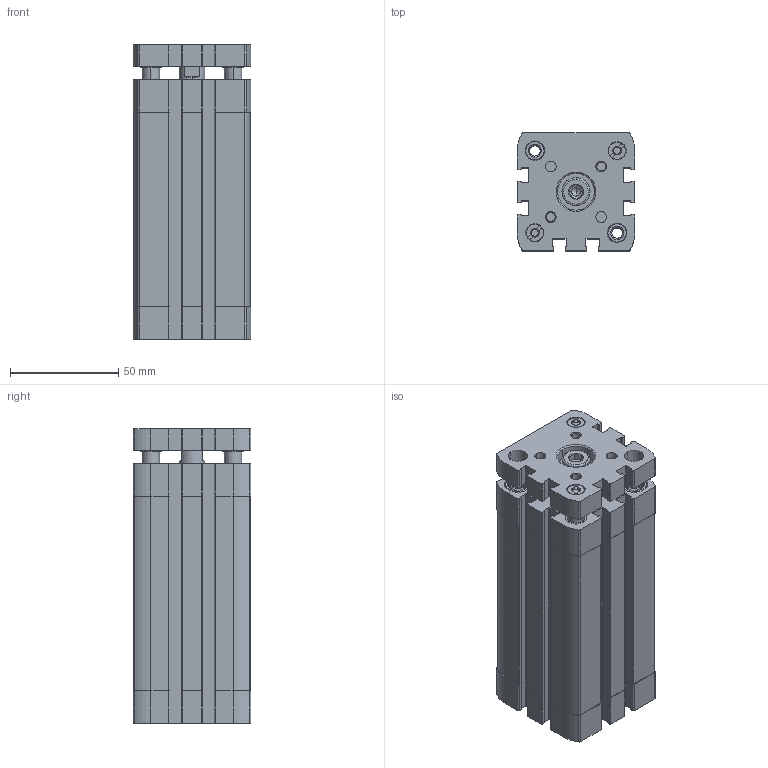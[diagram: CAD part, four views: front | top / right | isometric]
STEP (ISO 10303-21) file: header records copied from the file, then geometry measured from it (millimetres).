
FILE_DESCRIPTION (( 'STEP AP203' ), '1' );
FILE_NAME ('CCNG40-75.STEP', '2017-04-20T13:05:13', ( '' ), ( '' ), 'SwSTEP 2.0', 'SolidWorks 2016', '' );
FILE_SCHEMA (( 'CONFIG_CONTROL_DESIGN' ));
Length unit declared in the file: millimetre
Products named in the file (3): CCNG-40-75----(KS); CCNG40-75; CCNG-40-75----(Z)
Assembly tree (2 placements, depth 2):
  CCNG40-75
    CCNG-40-75----(Z)
    CCNG-40-75----(KS)
Bounding box: 54.5 x 54.5 x 136.1 mm (x, y, z)
Volume: 250562.8 mm3; surface area: 89763 mm2
Topology: 2 solids, 4 shells, 715 faces, 1929 edges, 1264 vertices
Faces by surface type: plane 363, cylinder 274, cone 72, bspline 6
Entity records: 23185 total; most frequent: CARTESIAN_POINT 4447, DIRECTION 3974, ORIENTED_EDGE 3854, EDGE_CURVE 1927, AXIS2_PLACEMENT_3D 1467, VERTEX_POINT 1264, LINE 1040, VECTOR 1040
